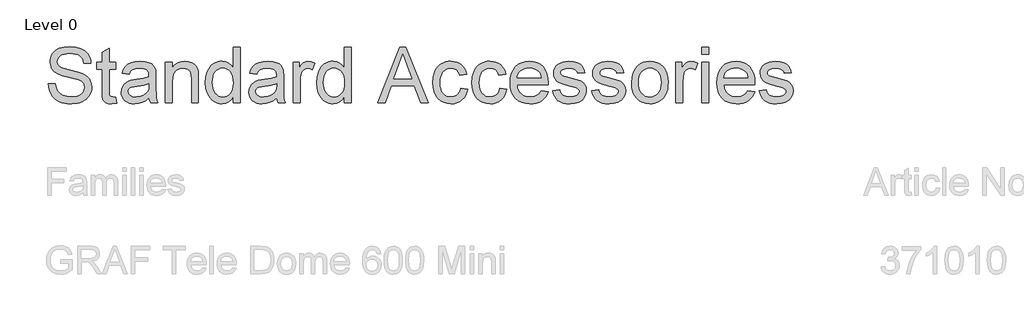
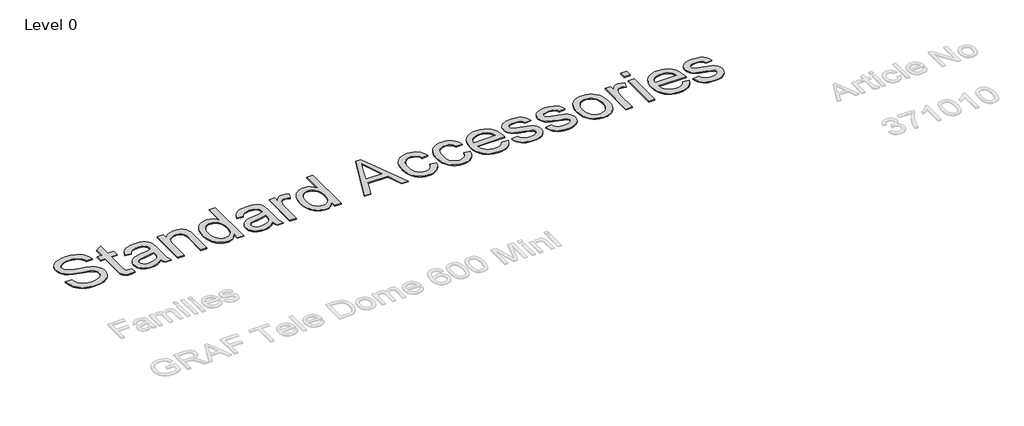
# One storey, part 12 of 19: 1 proxy.
"""IFC4 building model written with IfcOpenShell, lengths in millimetres."""

from ifc_helpers import new_model, si_unit, origin, origin_with_axes, place, context, project, spatial, polyline, outline, extrude, element, save

model = new_model("IFC4")

# Units and contexts
model_context = context("Model", 3, world=origin())
ifc_project = project(units=[si_unit("LENGTHUNIT", "METRE", prefix="MILLI")], contexts=[model_context])

# Site, building, storey
site = spatial("IfcSite", under=ifc_project)
building = spatial("IfcBuilding", under=site)
storey = spatial("IfcBuildingStorey", under=building, Name="Level 0", Elevation=0.0)

# Proxy
placement = place(None, origin())
element("IfcBuildingElementProxy", 1, Name="600mm Arial", ObjectType="600mm Arial", at=placement, inside=storey, context=model_context, shape_type="SweptSolid", body=[
    extrude(outline(polyline([(-15377.5518353, -7138.70625), (-15302.2096027, -7138.70625), (-15293.5643758, -7180.5160387), (-15277.9293911, -7214.122059), (-15253.5388148, -7240.7935036), (-15218.6268134, -7261.7995656), (-15175.952502, -7275.4295935), (-15128.2749954, -7279.9729361), (-15086.2996598, -7276.5332395), (-15049.5482484, -7266.2141495), (-15019.7682009, -7249.8801889), (-14998.7069567, -7228.3958804), (-14986.1805748, -7203.7293926), (-14982.0051141, -7177.8488943), (-14985.1321111, -7152.6305835), (-14994.513102, -7130.8335753), (-15013.5693893, -7112.2371404), (-15045.7222757, -7096.6205497), (-15155.4246867, -7067.8521777), (-15227.4375872, -7048.8142845), (-15273.5148071, -7030.6960962), (-15311.0203765, -7005.3490267), (-15337.5998507, -6974.6308801), (-15353.4371706, -6939.203844), (-15358.7162772, -6899.7301059), (-15357.0838008, -6877.2939027), (-15352.1863718, -6855.6026606), (-15344.02399, -6834.6563795), (-15332.5966555, -6814.4550594), (-15318.0331271, -6795.8218364), (-15300.4621633, -6779.5798463), (-15279.8837642, -6765.7290892), (-15256.2979297, -6754.269565), (-15203.2861342, -6738.8737035), (-15144.608956, -6733.7417497), (-15081.0389472, -6739.1128268), (-15025.4151896, -6755.2260582), (-15001.0797956, -6767.2282083), (-14979.7242458, -6781.7503501), (-14961.3485401, -6798.7924835), (-14945.9526786, -6818.3546086), (-14933.6562229, -6839.8665082), (-14924.5787347, -6862.7579654), (-14918.7202139, -6887.02898), (-14916.0806606, -6912.6795521), (-14991.4228932, -6912.6795521), (-14996.4628765, -6888.6384638), (-15005.2552562, -6867.7243723), (-15017.8000323, -6849.9372779), (-15034.0972046, -6835.2771804), (-15054.450276, -6823.8176562), (-15079.1627491, -6815.6322818), (-15108.2346237, -6810.7210572), (-15141.6659, -6809.0839823), (-15176.1640341, -6810.7026631), (-15205.640579, -6815.5587054), (-15230.0955346, -6823.6521093), (-15249.528901, -6834.9828748), (-15264.3361513, -6848.6037056), (-15274.9127587, -6863.5673058), (-15281.2587231, -6879.8736752), (-15283.3740446, -6897.5228139), (-15281.8749254, -6912.7071433), (-15277.3775681, -6926.475127), (-15269.8819724, -6938.8267649), (-15259.3881385, -6949.7620573), (-15242.8702369, -6960.1179354), (-15216.8609799, -6970.5841782), (-15136.3683993, -6991.8477575), (-15053.3006448, -7012.044479), (-15003.0479643, -7029.6660266), (-14960.0977413, -7056.9996588), (-14943.4924678, -7073.066905), (-14930.1337528, -7090.7344378), (-14919.8652466, -7109.9102868), (-14912.5305993, -7130.5024815), (-14906.6628815, -7175.9359079), (-14908.3505402, -7199.5033482), (-14913.4135161, -7222.3810098), (-14921.8518094, -7244.5688926), (-14933.66542, -7266.0669967), (-14948.6474142, -7286.042989), (-14966.5908585, -7303.6645366), (-14987.4957529, -7318.9316394), (-15011.3620973, -7331.8442974), (-15037.4955146, -7342.1128036), (-15065.2016273, -7349.4474509), (-15125.3319395, -7355.3151687), (-15163.872177, -7353.7332762), (-15199.1474618, -7348.9875984), (-15231.1577939, -7341.0781355), (-15259.9031733, -7330.0048875), (-15285.5583439, -7315.7494602), (-15308.2980498, -7298.2934595), (-15328.1222908, -7277.6368855), (-15345.031067, -7253.7797381), (-15358.6518978, -7227.4945695), (-15368.6123029, -7199.553932), (-15374.912282, -7169.9578255), (-15377.5518353, -7138.70625)])), origin_with_axes(), (0.0, 0.0, 1.0), 10.0),
    extrude(outline(polyline([(-14642.9650674, -7283.0631449), (-14633.5472883, -7348.1046816), (-14689.90681, -7355.3151687), (-14726.0696101, -7352.1881718), (-14753.0353603, -7342.8071809), (-14772.0916477, -7328.3494185), (-14784.5260591, -7309.9921069), (-14791.3686642, -7278.4646199), (-14793.6495326, -7224.4963313), (-14793.6495326, -6978.6040057), (-14850.1562071, -6978.6040057), (-14850.1562071, -6903.2617731), (-14793.6495326, -6903.2617731), (-14793.6495326, -6795.6930777), (-14718.3073, -6751.4000855), (-14718.3073, -6903.2617731), (-14642.9650674, -6903.2617731), (-14642.9650674, -6978.6040057), (-14718.3073, -6978.6040057), (-14718.3073, -7222.2890393), (-14714.3341744, -7261.137378), (-14701.4583046, -7274.8961646), (-14690.5873917, -7278.7037432), (-14675.7801413, -7279.9729361), (-14642.9650674, -7283.0631449)])), origin_with_axes(), (0.0, 0.0, 1.0), 10.0),
    extrude(outline(polyline([(-14285.0894625, -7289.3907152), (-14321.0867157, -7320.2560146), (-14358.1508267, -7340.4527361), (-14397.1279241, -7351.5995606), (-14438.8641365, -7355.3151687), (-14472.4103759, -7353.0802856), (-14501.8271399, -7346.3756363), (-14527.1144286, -7335.2012206), (-14548.2722418, -7319.5570388), (-14564.9786829, -7300.4363721), (-14576.9118551, -7278.8325019), (-14584.0717585, -7254.7454283), (-14586.4583929, -7228.1751512), (-14582.8531494, -7196.9419698), (-14572.0374187, -7168.578268), (-14555.3539702, -7144.2980563), (-14534.1455732, -7125.3153454), (-14509.221568, -7110.9679475), (-14481.3912951, -7100.5936753), (-14416.2026055, -7089.2629098), (-14339.1681158, -7077.3435332), (-14285.5309209, -7063.3640174), (-14285.0894625, -7046.5885984), (-14290.2765986, -7012.964184), (-14296.7605188, -7000.5113785), (-14305.838007, -6990.9648407), (-14321.5281741, -6981.436697), (-14340.6396437, -6974.6308801), (-14389.1264907, -6969.1862266), (-14434.0080941, -6972.8098643), (-14465.3516401, -6983.6807772), (-14486.725584, -7003.7855282), (-14501.6983812, -7035.1106801), (-14577.0406138, -7025.6929011), (-14563.9624089, -6984.4901176), (-14544.4462691, -6952.116502), (-14516.6711784, -6927.3580437), (-14478.8161211, -6909.0007322), (-14432.518172, -6897.6331785), (-14379.414406, -6893.843994), (-14328.4811438, -6897.1917201), (-14288.1060948, -6907.2348986), (-14257.6638597, -6922.3364545), (-14236.5290391, -6940.859313), (-14222.5127351, -6963.7599672), (-14213.4260498, -6991.9949103), (-14209.7472299, -7057.9193638), (-14209.7472299, -7151.6556962), (-14205.9212571, -7282.5481101), (-14200.2558744, -7314.9033316), (-14190.9116717, -7345.8973897), (-14266.2539043, -7345.8973897), (-14278.3204338, -7319.7041916), (-14285.0894625, -7289.3907152)]), holes=[polyline([(-14285.0894625, -7138.70625), (-14335.710025, -7151.251026), (-14406.6376737, -7161.8092393), (-14471.4584812, -7174.0229215), (-14488.3258707, -7182.3738428), (-14500.8154644, -7193.8885493), (-14508.5409863, -7207.6841241), (-14511.1161603, -7222.8776505), (-14505.5059599, -7245.281664), (-14488.6753586, -7263.6389755), (-14460.9922385, -7275.889446), (-14422.8244815, -7279.9729361), (-14382.357462, -7275.4663817), (-14346.5993321, -7261.9467184), (-14317.6102308, -7242.0259083), (-14297.4502975, -7218.3159137), (-14288.510765, -7193.8885493), (-14285.5309209, -7160.0434057), (-14285.0894625, -7138.70625)])]), origin_with_axes(), (0.0, 0.0, 1.0), 10.0),
    extrude(outline(polyline([(-14106.15166, -7345.8973897), (-14106.15166, -6903.2617731), (-14030.8094274, -6903.2617731), (-14030.8094274, -6965.0659483), (-14004.6346234, -6933.9063433), (-13973.199107, -6911.6494826), (-13936.5028779, -6898.2953661), (-13894.5459364, -6893.843994), (-13857.408249, -6897.4308434), (-13823.3975585, -6908.1913918), (-13795.0338567, -6924.7828698), (-13774.8371352, -6945.8625081), (-13761.1335308, -6971.3751245), (-13752.2491807, -7001.2655366), (-13748.2760551, -7074.1061716), (-13748.2760551, -7345.8973897), (-13823.6182877, -7345.8973897), (-13823.6182877, -7084.2597147), (-13825.7887915, -7045.3010114), (-13832.3003028, -7017.5994972), (-13844.3116499, -6997.7522635), (-13862.9816612, -6982.356402), (-13886.912385, -6972.4787705), (-13914.7058697, -6969.1862266), (-13937.5835313, -6971.0348336), (-13958.833315, -6976.5806547), (-13978.455221, -6985.8236898), (-13996.4492491, -6998.763939), (-14011.4818271, -7016.8729302), (-14022.2193828, -7041.6221914), (-14028.6619163, -7073.0117227), (-14030.8094274, -7111.0415239), (-14030.8094274, -7345.8973897), (-14106.15166, -7345.8973897)])), origin_with_axes(), (0.0, 0.0, 1.0), 10.0),
    extrude(outline(polyline([(-13371.564892, -7345.8973897), (-13371.564892, -7274.8225882), (-13394.1068613, -7310.0380922), (-13421.4129024, -7335.1920236), (-13453.4830153, -7350.2843825), (-13490.3172001, -7355.3151687), (-13515.186023, -7353.4941529), (-13539.0247763, -7348.0311052), (-13561.83346, -7338.9260259), (-13583.6120741, -7326.1789147), (-13603.6800369, -7310.1714494), (-13621.3567668, -7291.2853075), (-13636.6422637, -7269.5204889), (-13649.5365276, -7244.8769938), (-13659.7728441, -7217.8238716), (-13667.0844988, -7188.8301718), (-13672.9338225, -7125.0210398), (-13667.5443513, -7062.002854), (-13651.3759376, -7005.0915093), (-13639.2542258, -6979.7352428), (-13624.4469755, -6957.5243674), (-13606.9541867, -6938.458883), (-13586.7758592, -6922.5387896), (-13564.6247646, -6909.9848165), (-13541.2136741, -6901.0176929), (-13516.5425878, -6895.6374187), (-13490.6115057, -6893.843994), (-13453.7497298, -6898.9759478), (-13421.155385, -6914.3718093), (-13393.5274472, -6937.9714393), (-13371.564892, -6967.7146986), (-13371.564892, -6743.1595288), (-13296.2226594, -6743.1595288), (-13296.2226594, -7345.8973897), (-13371.564892, -7345.8973897)]), holes=[polyline([(-13597.5915899, -7124.7267342), (-13595.4670714, -7161.2620148), (-13589.0935158, -7192.8768738), (-13578.4709232, -7219.571311), (-13563.5992935, -7241.3453266), (-13545.8397902, -7258.2449058), (-13526.5535766, -7270.3160338), (-13505.7406527, -7277.5587105), (-13483.4010186, -7279.9729361), (-13460.9556183, -7277.6690751), (-13440.2668546, -7270.7574921), (-13421.3347275, -7259.2381872), (-13404.1592368, -7243.1111602), (-13389.899211, -7222.2476526), (-13379.7134782, -7196.5189055), (-13373.6020386, -7165.9249191), (-13371.564892, -7130.4656933), (-13373.6388268, -7091.5897634), (-13379.860631, -7058.2504576), (-13390.2303048, -7030.4477758), (-13404.747848, -7008.1817181), (-13422.3004177, -6991.1211906), (-13441.7751708, -6978.9350995), (-13463.1721074, -6971.6234448), (-13486.4912273, -6969.1862266), (-13509.2723199, -6971.5268758), (-13530.0852438, -6978.5488234), (-13548.929999, -6990.2520693), (-13565.8065855, -7006.6366137), (-13579.7125249, -7028.0611414), (-13589.6453388, -7054.8843374), (-13595.6050271, -7087.1062016), (-13597.5915899, -7124.7267342)])]), origin_with_axes(), (0.0, 0.0, 1.0), 10.0),
    extrude(outline(polyline([(-12900.6759382, -7289.3907152), (-12936.6731914, -7320.2560146), (-12973.7373025, -7340.4527361), (-13012.7143999, -7351.5995606), (-13054.4506122, -7355.3151687), (-13087.9968516, -7353.0802856), (-13117.4136157, -7346.3756363), (-13142.7009043, -7335.2012206), (-13163.8587176, -7319.5570388), (-13180.5651587, -7300.4363721), (-13192.4983309, -7278.8325019), (-13199.6582342, -7254.7454283), (-13202.0448687, -7228.1751512), (-13198.4396251, -7196.9419698), (-13187.6238945, -7168.578268), (-13170.940446, -7144.2980563), (-13149.732049, -7125.3153454), (-13124.8080438, -7110.9679475), (-13096.9777708, -7100.5936753), (-13031.7890813, -7089.2629098), (-12954.7545915, -7077.3435332), (-12901.1173966, -7063.3640174), (-12900.6759382, -7046.5885984), (-12905.8630744, -7012.964184), (-12912.3469945, -7000.5113785), (-12921.4244827, -6990.9648407), (-12937.1146498, -6981.436697), (-12956.2261195, -6974.6308801), (-13004.7129665, -6969.1862266), (-13049.5945699, -6972.8098643), (-13080.9381159, -6983.6807772), (-13102.3120598, -7003.7855282), (-13117.284857, -7035.1106801), (-13192.6270896, -7025.6929011), (-13179.5488847, -6984.4901176), (-13160.0327448, -6952.116502), (-13132.2576542, -6927.3580437), (-13094.4025969, -6909.0007322), (-13048.1046478, -6897.6331785), (-12995.0008818, -6893.843994), (-12944.0676196, -6897.1917201), (-12903.6925706, -6907.2348986), (-12873.2503355, -6922.3364545), (-12852.1155149, -6940.859313), (-12838.0992108, -6963.7599672), (-12829.0125256, -6991.9949103), (-12825.3337056, -7057.9193638), (-12825.3337056, -7151.6556962), (-12821.5077329, -7282.5481101), (-12815.8423501, -7314.9033316), (-12806.4981475, -7345.8973897), (-12881.8403801, -7345.8973897), (-12893.9069095, -7319.7041916), (-12900.6759382, -7289.3907152)]), holes=[polyline([(-12900.6759382, -7138.70625), (-12951.2965008, -7151.251026), (-13022.2241494, -7161.8092393), (-13087.044957, -7174.0229215), (-13103.9123465, -7182.3738428), (-13116.4019402, -7193.8885493), (-13124.1274621, -7207.6841241), (-13126.7026361, -7222.8776505), (-13121.0924356, -7245.281664), (-13104.2618344, -7263.6389755), (-13076.5787142, -7275.889446), (-13038.4109572, -7279.9729361), (-12997.9439377, -7275.4663817), (-12962.1858078, -7261.9467184), (-12933.1967066, -7242.0259083), (-12913.0367733, -7218.3159137), (-12904.0972408, -7193.8885493), (-12901.1173966, -7160.0434057), (-12900.6759382, -7138.70625)])]), origin_with_axes(), (0.0, 0.0, 1.0), 10.0),
    extrude(outline(polyline([(-12721.7381358, -7345.8973897), (-12721.7381358, -6903.2617731), (-12655.8136822, -6903.2617731), (-12655.8136822, -6968.7447682), (-12631.4598941, -6930.7793463), (-12609.0190924, -6908.412121), (-12586.5047143, -6897.4860257), (-12561.9301971, -6893.843994), (-12524.4062336, -6899.6565295), (-12486.2936589, -6917.0941361), (-12511.4567873, -6984.6372704), (-12537.944291, -6973.0489875), (-12564.4317946, -6969.1862266), (-12586.9277786, -6972.9018347), (-12607.0325297, -6984.0486592), (-12623.2745198, -7001.7805714), (-12634.1822209, -7025.2514427), (-12643.3424826, -7067.3371429), (-12646.3959032, -7113.2488159), (-12646.3959032, -7345.8973897), (-12721.7381358, -7345.8973897)])), origin_with_axes(), (0.0, 0.0, 1.0), 10.0),
    extrude(outline(polyline([(-12166.0891703, -7345.8973897), (-12166.0891703, -7274.8225882), (-12188.6311395, -7310.0380922), (-12215.9371806, -7335.1920236), (-12248.0072935, -7350.2843825), (-12284.8414783, -7355.3151687), (-12309.7103012, -7353.4941529), (-12333.5490545, -7348.0311052), (-12356.3577382, -7338.9260259), (-12378.1363523, -7326.1789147), (-12398.2043151, -7310.1714494), (-12415.881045, -7291.2853075), (-12431.1665419, -7269.5204889), (-12444.0608058, -7244.8769938), (-12454.2971223, -7217.8238716), (-12461.608777, -7188.8301718), (-12467.4581007, -7125.0210398), (-12462.0686295, -7062.002854), (-12445.9002158, -7005.0915093), (-12433.778504, -6979.7352428), (-12418.9712537, -6957.5243674), (-12401.4784649, -6938.458883), (-12381.3001374, -6922.5387896), (-12359.1490428, -6909.9848165), (-12335.7379523, -6901.0176929), (-12311.066866, -6895.6374187), (-12285.1357839, -6893.843994), (-12248.274008, -6898.9759478), (-12215.6796632, -6914.3718093), (-12188.0517254, -6937.9714393), (-12166.0891703, -6967.7146986), (-12166.0891703, -6743.1595288), (-12090.7469376, -6743.1595288), (-12090.7469376, -7345.8973897), (-12166.0891703, -7345.8973897)]), holes=[polyline([(-12392.1158681, -7124.7267342), (-12389.9913496, -7161.2620148), (-12383.617794, -7192.8768738), (-12372.9952014, -7219.571311), (-12358.1235717, -7241.3453266), (-12340.3640684, -7258.2449058), (-12321.0778548, -7270.3160338), (-12300.2649309, -7277.5587105), (-12277.9252968, -7279.9729361), (-12255.4798966, -7277.6690751), (-12234.7911328, -7270.7574921), (-12215.8590057, -7259.2381872), (-12198.683515, -7243.1111602), (-12184.4234892, -7222.2476526), (-12174.2377564, -7196.5189055), (-12168.1263168, -7165.9249191), (-12166.0891703, -7130.4656933), (-12168.163105, -7091.5897634), (-12174.3849092, -7058.2504576), (-12184.754583, -7030.4477758), (-12199.2721262, -7008.1817181), (-12216.8246959, -6991.1211906), (-12236.299449, -6978.9350995), (-12257.6963856, -6971.6234448), (-12281.0155055, -6969.1862266), (-12303.7965981, -6971.5268758), (-12324.609522, -6978.5488234), (-12343.4542772, -6990.2520693), (-12360.3308637, -7006.6366137), (-12374.2368031, -7028.0611414), (-12384.169617, -7054.8843374), (-12390.1293053, -7087.1062016), (-12392.1158681, -7124.7267342)])]), origin_with_axes(), (0.0, 0.0, 1.0), 10.0),
    extrude(outline(polyline([(-11803.0632174, -7345.8973897), (-11562.4683926, -6743.1595288), (-11498.3097726, -6743.1595288), (-11257.7149478, -7345.8973897), (-11337.3246115, -7345.8973897), (-11406.3392738, -7157.5418081), (-11654.5860442, -7157.5418081), (-11723.4535537, -7345.8973897), (-11803.0632174, -7345.8973897)]), holes=[polyline([(-11626.9213181, -7082.1995755), (-11433.8568471, -7082.1995755), (-11488.1562295, -6934.0167079), (-11530.3890826, -6818.5017614), (-11567.9130461, -6921.0672616), (-11626.9213181, -7082.1995755)])]), origin_with_axes(), (0.0, 0.0, 1.0), 10.0),
    extrude(outline(polyline([(-10904.106774, -7185.7951454), (-10828.7645414, -7195.2129244), (-10836.9591128, -7230.7641207), (-10849.7706033, -7262.2226299), (-10867.1990128, -7289.5884518), (-10889.2443414, -7312.8615865), (-10914.977687, -7331.4350287), (-10943.4701475, -7344.7017732), (-10974.721723, -7352.6618198), (-11008.7324134, -7355.3151687), (-11050.9882591, -7351.6133562), (-11088.8755061, -7340.5079184), (-11122.3941544, -7321.9988555), (-11151.544204, -7296.0861675), (-11175.1392354, -7263.257298), (-11191.9928293, -7223.9996906), (-11202.1049857, -7178.3133453), (-11205.4757044, -7126.1982621), (-11199.7183512, -7059.1517685), (-11192.5216597, -7028.9808464), (-11182.4462915, -7001.0448074), (-11169.4232689, -6975.9046715), (-11153.3836139, -6954.1214589), (-11134.3273266, -6935.6951695), (-11112.2544069, -6920.6258032), (-11088.1627347, -6908.9087617), (-11063.05019, -6900.5394463), (-11036.9167728, -6895.5178571), (-11009.762483, -6893.843994), (-10976.3358052, -6896.1432565), (-10946.1005037, -6903.0410439), (-10919.0565786, -6914.5373562), (-10895.2040297, -6930.6321935), (-10874.9475274, -6950.9576737), (-10858.6917417, -6975.1459149), (-10846.4366727, -7003.1969171), (-10838.1823205, -7035.1106801), (-10913.5245531, -7044.5284592), (-10927.1913692, -7011.6582029), (-10948.4733426, -6988.0953612), (-10976.193251, -6973.9135102), (-11009.1738718, -6969.1862266), (-11034.7738602, -6971.5130802), (-11057.8630539, -6978.4936411), (-11078.441453, -6990.1279092), (-11096.5090575, -7006.4158845), (-11111.2197388, -7027.7346461), (-11121.7273682, -7054.4612731), (-11128.0319459, -7086.5957654), (-11130.1334718, -7124.138123), (-11128.0779312, -7162.2460991), (-11121.9113092, -7194.7530719), (-11111.633606, -7221.6590414), (-11097.2448215, -7242.9640074), (-11079.5359019, -7259.1554137), (-11059.2977937, -7270.7207039), (-11036.5304967, -7277.6598781), (-11011.234011, -7279.9729361), (-10972.2201254, -7274.1971888), (-10955.3481374, -7266.9775046), (-10940.2327859, -7256.8699468), (-10927.2971353, -7243.7641507), (-10916.9642497, -7227.5497518), (-10909.2341293, -7208.22675), (-10904.106774, -7185.7951454)])), origin_with_axes(), (0.0, 0.0, 1.0), 10.0),
    extrude(outline(polyline([(-10480.3067156, -7185.7951454), (-10404.9644829, -7195.2129244), (-10413.1590544, -7230.7641207), (-10425.9705449, -7262.2226299), (-10443.3989544, -7289.5884518), (-10465.4442829, -7312.8615865), (-10491.1776285, -7331.4350287), (-10519.670089, -7344.7017732), (-10550.9216645, -7352.6618198), (-10584.932355, -7355.3151687), (-10627.1882007, -7351.6133562), (-10665.0754476, -7340.5079184), (-10698.5940959, -7321.9988555), (-10727.7441455, -7296.0861675), (-10751.339177, -7263.257298), (-10768.1927709, -7223.9996906), (-10778.3049272, -7178.3133453), (-10781.675646, -7126.1982621), (-10775.9182928, -7059.1517685), (-10768.7216012, -7028.9808464), (-10758.6462331, -7001.0448074), (-10745.6232105, -6975.9046715), (-10729.5835555, -6954.1214589), (-10710.5272681, -6935.6951695), (-10688.4543484, -6920.6258032), (-10664.3626763, -6908.9087617), (-10639.2501316, -6900.5394463), (-10613.1167143, -6895.5178571), (-10585.9624246, -6893.843994), (-10552.5357468, -6896.1432565), (-10522.3004453, -6903.0410439), (-10495.2565201, -6914.5373562), (-10471.4039713, -6930.6321935), (-10451.1474689, -6950.9576737), (-10434.8916832, -6975.1459149), (-10422.6366143, -7003.1969171), (-10414.382262, -7035.1106801), (-10489.7244946, -7044.5284592), (-10503.3913107, -7011.6582029), (-10524.6732842, -6988.0953612), (-10552.3931925, -6973.9135102), (-10585.3738134, -6969.1862266), (-10610.9738017, -6971.5130802), (-10634.0629954, -6978.4936411), (-10654.6413945, -6990.1279092), (-10672.708999, -7006.4158845), (-10687.4196803, -7027.7346461), (-10697.9273098, -7054.4612731), (-10704.2318875, -7086.5957654), (-10706.3334134, -7124.138123), (-10704.2778727, -7162.2460991), (-10698.1112508, -7194.7530719), (-10687.8335476, -7221.6590414), (-10673.444763, -7242.9640074), (-10655.7358435, -7259.1554137), (-10635.4977352, -7270.7207039), (-10612.7304382, -7277.6598781), (-10587.4339525, -7279.9729361), (-10548.420067, -7274.1971888), (-10531.548079, -7266.9775046), (-10516.4327275, -7256.8699468), (-10503.4970768, -7243.7641507), (-10493.1641913, -7227.5497518), (-10485.4340709, -7208.22675), (-10480.3067156, -7185.7951454)])), origin_with_axes(), (0.0, 0.0, 1.0), 10.0),
    extrude(outline(polyline([(-10029.1362367, -7214.0484826), (-9955.265532, -7223.4662617), (-9966.591699, -7253.0531711), (-9981.8817944, -7279.1268075), (-10001.1358183, -7301.6871709), (-10024.3537707, -7320.7342612), (-10051.2965284, -7335.8634082), (-10081.7249679, -7346.6699418), (-10115.6390893, -7353.153862), (-10153.0388926, -7355.3151687), (-10199.7874972, -7351.585765), (-10241.4409361, -7340.3975538), (-10277.9992094, -7321.7505352), (-10309.462317, -7295.6447091), (-10334.7634012, -7262.8066425), (-10352.8356042, -7223.9629024), (-10363.678926, -7179.1134886), (-10367.2933666, -7128.2584013), (-10363.6421378, -7075.6788672), (-10352.6884514, -7029.3349328), (-10334.4323074, -6989.2265983), (-10308.8737058, -6955.3538636), (-10277.4933716, -6928.4432956), (-10241.7720299, -6909.2214614), (-10201.7096806, -6897.6883608), (-10157.3063238, -6893.843994), (-10114.3331082, -6897.6791638), (-10075.470974, -6909.1846732), (-10040.719921, -6928.3605222), (-10010.0799493, -6955.2067108), (-9985.0685722, -6989.0058691), (-9967.2033028, -7029.0406272), (-9956.4841411, -7075.3109852), (-9952.9110873, -7127.8169429), (-9953.3525457, -7148.1240291), (-10291.951134, -7148.1240291), (-10287.5871339, -7178.1891851), (-10278.9097173, -7204.5203389), (-10265.9188843, -7227.1174905), (-10248.614635, -7245.9806398), (-10227.9534624, -7260.8522694), (-10204.8918599, -7271.474862), (-10179.4298273, -7277.8484176), (-10151.5673647, -7279.9729361), (-10111.4682272, -7276.0365988), (-10077.69666, -7264.2275867), (-10050.2526632, -7243.810136), (-10029.1362367, -7214.0484826)]), holes=[polyline([(-10291.951134, -7072.7817964), (-10028.2533199, -7072.7817964), (-10038.4436511, -7032.9769646), (-10047.2084397, -7017.3235857), (-10058.4196435, -7004.5028981), (-10078.9658529, -6989.0518543), (-10102.3447537, -6978.0153945), (-10128.5563459, -6971.3935186), (-10157.6006294, -6969.1862266), (-10184.0927316, -6970.9474617), (-10208.3867388, -6976.2311668), (-10230.4826512, -6985.0373421), (-10250.3804686, -6997.3659874), (-10267.0777126, -7012.6468858), (-10279.5719049, -7030.3098201), (-10287.8630454, -7050.3547903), (-10291.951134, -7072.7817964)])]), origin_with_axes(), (0.0, 0.0, 1.0), 10.0),
    extrude(outline(polyline([(-9905.8221919, -7214.0484826), (-9830.4799593, -7204.6307035), (-9825.9274196, -7221.8107927), (-9818.5973708, -7236.8571663), (-9808.489813, -7249.7698243), (-9795.6047461, -7260.5487668), (-9779.905382, -7269.0468409), (-9761.3549324, -7275.1168938), (-9715.7007768, -7279.9729361), (-9670.5984442, -7275.521564), (-9653.0688671, -7269.9573488), (-9638.8870162, -7262.1674476), (-9620.1250344, -7242.8168546), (-9615.434539, -7231.9827299), (-9613.8710405, -7220.3760529), (-9615.443736, -7210.2041157), (-9620.1618226, -7201.1726128), (-9639.034169, -7186.5309093), (-9667.250718, -7176.9659775), (-9716.5836936, -7165.0466008), (-9785.3408385, -7145.162579), (-9830.0385009, -7128.1848249), (-9858.7516906, -7109.6619665), (-9879.5554174, -7085.1426315), (-9892.192164, -7056.1903185), (-9896.4044128, -7024.3685259), (-9893.0198985, -6995.1770896), (-9882.8663554, -6968.2297334), (-9866.8634886, -6944.5933152), (-9845.9310031, -6925.3346928), (-9825.1272762, -6913.212981), (-9798.0327673, -6903.0410439), (-9766.7076154, -6896.1432565), (-9733.2119597, -6893.843994), (-9684.1732898, -6897.541208), (-9641.5357665, -6908.6328502), (-9607.2491646, -6926.0336686), (-9583.2632585, -6948.6584113), (-9567.3707563, -6978.1809414), (-9557.3643661, -7016.275122), (-9632.7065987, -7025.6929011), (-9642.2163482, -7001.9829065), (-9661.0335123, -6984.1222356), (-9689.3420318, -6972.9202288), (-9727.3258478, -6969.1862266), (-9770.5887705, -6972.754682), (-9799.4307189, -6983.460048), (-9815.6543149, -6998.9110918), (-9821.0621802, -7016.7165804), (-9818.8181, -7028.3048632), (-9812.0858595, -7038.6423473), (-9800.5711531, -7047.8761854), (-9783.9796751, -7055.2706135), (-9719.0852911, -7071.3102685), (-9608.4999634, -7106.7740928), (-9579.290133, -7123.7334528), (-9557.1436369, -7146.9468067), (-9543.1825151, -7176.4877309), (-9538.5288079, -7212.4298018), (-9543.9918555, -7249.5858833), (-9560.3809984, -7284.5346729), (-9587.0708372, -7314.5354496), (-9623.4359724, -7336.8474926), (-9667.3610826, -7350.6982497), (-9716.7308464, -7355.3151687), (-9757.2806393, -7353.0894827), (-9792.6984784, -7346.4124245), (-9822.9843636, -7335.2839941), (-9848.138295, -7319.7041916), (-9868.6845045, -7299.7465934), (-9885.1472238, -7275.4847758), (-9897.5264529, -7246.9187389), (-9905.8221919, -7214.0484826)])), origin_with_axes(), (0.0, 0.0, 1.0), 10.0),
    extrude(outline(polyline([(-9482.0221334, -7214.0484826), (-9406.6799008, -7204.6307035), (-9402.1273611, -7221.8107927), (-9394.7973124, -7236.8571663), (-9384.6897546, -7249.7698243), (-9371.8046877, -7260.5487668), (-9356.1053235, -7269.0468409), (-9337.5548739, -7275.1168938), (-9291.9007183, -7279.9729361), (-9246.7983857, -7275.521564), (-9229.2688087, -7269.9573488), (-9215.0869577, -7262.1674476), (-9196.324976, -7242.8168546), (-9191.6344805, -7231.9827299), (-9190.0709821, -7220.3760529), (-9191.6436776, -7210.2041157), (-9196.3617642, -7201.1726128), (-9215.2341105, -7186.5309093), (-9243.4506596, -7176.9659775), (-9292.7836351, -7165.0466008), (-9361.54078, -7145.162579), (-9406.2384424, -7128.1848249), (-9434.9516322, -7109.6619665), (-9455.755359, -7085.1426315), (-9468.3921055, -7056.1903185), (-9472.6043544, -7024.3685259), (-9469.21984, -6995.1770896), (-9459.0662969, -6968.2297334), (-9443.0634302, -6944.5933152), (-9422.1309446, -6925.3346928), (-9401.3272178, -6913.212981), (-9374.2327089, -6903.0410439), (-9342.907557, -6896.1432565), (-9309.4119013, -6893.843994), (-9260.3732313, -6897.541208), (-9217.7357081, -6908.6328502), (-9183.4491062, -6926.0336686), (-9159.4632001, -6948.6584113), (-9143.5706979, -6978.1809414), (-9133.5643076, -7016.275122), (-9208.9065402, -7025.6929011), (-9218.4162898, -7001.9829065), (-9237.2334538, -6984.1222356), (-9265.5419734, -6972.9202288), (-9303.5257894, -6969.1862266), (-9346.788712, -6972.754682), (-9375.6306604, -6983.460048), (-9391.8542564, -6998.9110918), (-9397.2621218, -7016.7165804), (-9395.0180416, -7028.3048632), (-9388.2858011, -7038.6423473), (-9376.7710946, -7047.8761854), (-9360.1796166, -7055.2706135), (-9295.2852327, -7071.3102685), (-9184.6999049, -7106.7740928), (-9155.4900745, -7123.7334528), (-9133.3435784, -7146.9468067), (-9119.3824567, -7176.4877309), (-9114.7287495, -7212.4298018), (-9120.1917971, -7249.5858833), (-9136.58094, -7284.5346729), (-9163.2707787, -7314.5354496), (-9199.6359139, -7336.8474926), (-9243.5610242, -7350.6982497), (-9292.9307879, -7355.3151687), (-9333.4805808, -7353.0894827), (-9368.8984199, -7346.4124245), (-9399.1843052, -7335.2839941), (-9424.3382366, -7319.7041916), (-9444.884446, -7299.7465934), (-9461.3471653, -7275.4847758), (-9473.7263944, -7246.9187389), (-9482.0221334, -7214.0484826)])), origin_with_axes(), (0.0, 0.0, 1.0), 10.0),
    extrude(outline(polyline([(-9048.8042959, -7124.5795814), (-9044.7300028, -7067.2543695), (-9032.5071235, -7017.8570146), (-9012.1356581, -6976.3875167), (-8983.6156064, -6942.8458757), (-8954.9024167, -6921.4075525), (-8923.2093828, -6906.0944644), (-8888.5365047, -6896.9066116), (-8850.8837825, -6893.843994), (-8809.3177156, -6897.5733977), (-8771.7339713, -6908.7616089), (-8738.1325495, -6927.4086275), (-8708.5134504, -6953.5144536), (-8684.3390048, -6986.1961704), (-8667.0715436, -7024.570861), (-8656.7110669, -7068.6385255), (-8653.2575747, -7118.3991638), (-8654.784285, -7158.7282276), (-8659.3644158, -7194.5139486), (-8666.9979672, -7225.7563271), (-8677.6849392, -7252.4553629), (-8691.2919745, -7275.5169655), (-8707.6857159, -7295.8470442), (-8726.8661634, -7313.4455992), (-8748.8333171, -7328.3126303), (-8772.7318512, -7340.1262409), (-8797.7064401, -7348.5645341), (-8823.7570839, -7353.6275101), (-8850.8837825, -7355.3151687), (-8893.0568547, -7351.5995606), (-8930.990087, -7340.4527361), (-8964.6834792, -7321.8746954), (-8994.1370314, -7295.8654383), (-9018.0539596, -7262.8664233), (-9035.1374798, -7223.3191089), (-9045.3875919, -7177.2234949), (-9048.8042959, -7124.5795814)]), holes=[polyline([(-8973.4620633, -7124.4324286), (-8971.2823625, -7160.9769063), (-8964.74326, -7192.6193564), (-8953.8447559, -7219.3597789), (-8938.5868502, -7241.1981738), (-8920.0272035, -7258.1621323), (-8899.2234767, -7270.2792456), (-8876.1756697, -7277.5495135), (-8850.8837825, -7279.9729361), (-8825.720654, -7277.5357179), (-8802.7648175, -7270.2240633), (-8782.016273, -7258.0379722), (-8763.4750205, -7240.9774446), (-8748.2171147, -7218.922919), (-8737.3186106, -7191.7548337), (-8730.7795081, -7159.4731886), (-8728.5998073, -7122.0779838), (-8730.7933037, -7086.6923344), (-8737.3737929, -7055.8776188), (-8748.3412749, -7029.6338369), (-8763.6957497, -7007.9609889), (-8782.3059801, -6990.9970304), (-8803.040729, -6978.8799172), (-8825.8999965, -6971.6096492), (-8850.8837825, -6969.1862266), (-8876.1756697, -6971.6004522), (-8899.2234767, -6978.843129), (-8920.0272035, -6990.9142569), (-8938.5868502, -7007.8138361), (-8953.8447559, -7029.5878517), (-8964.74326, -7056.282289), (-8971.2823625, -7087.8971479), (-8973.4620633, -7124.4324286)])]), origin_with_axes(), (0.0, 0.0, 1.0), 10.0),
    extrude(outline(polyline([(-8568.497563, -7345.8973897), (-8568.497563, -6903.2617731), (-8502.5731095, -6903.2617731), (-8502.5731095, -6968.7447682), (-8478.2193214, -6930.7793463), (-8455.7785197, -6908.412121), (-8433.2641416, -6897.4860257), (-8408.6896243, -6893.843994), (-8371.1656608, -6899.6565295), (-8333.0530861, -6917.0941361), (-8358.2162146, -6984.6372704), (-8384.7037182, -6973.0489875), (-8411.1912219, -6969.1862266), (-8433.6872059, -6972.9018347), (-8453.7919569, -6984.0486592), (-8470.033947, -7001.7805714), (-8480.9416482, -7025.2514427), (-8490.1019098, -7067.3371429), (-8493.1553304, -7113.2488159), (-8493.1553304, -7345.8973897), (-8568.497563, -7345.8973897)])), origin_with_axes(), (0.0, 0.0, 1.0), 10.0),
    extrude(outline(polyline([(-8285.9641907, -6818.5017614), (-8285.9641907, -6743.1595288), (-8210.6219581, -6743.1595288), (-8210.6219581, -6818.5017614), (-8285.9641907, -6818.5017614)])), origin_with_axes(), (0.0, 0.0, 1.0), 10.0),
    extrude(outline(polyline([(-8285.9641907, -7345.8973897), (-8285.9641907, -6903.2617731), (-8210.6219581, -6903.2617731), (-8210.6219581, -7345.8973897), (-8285.9641907, -7345.8973897)])), origin_with_axes(), (0.0, 0.0, 1.0), 10.0),
    extrude(outline(polyline([(-7787.7048165, -7214.0484826), (-7713.8341118, -7223.4662617), (-7725.1602787, -7253.0531711), (-7740.4503742, -7279.1268075), (-7759.7043981, -7301.6871709), (-7782.9223505, -7320.7342612), (-7809.8651081, -7335.8634082), (-7840.2935477, -7346.6699418), (-7874.2076691, -7353.153862), (-7911.6074724, -7355.3151687), (-7958.356077, -7351.585765), (-8000.0095159, -7340.3975538), (-8036.5677891, -7321.7505352), (-8068.0308968, -7295.6447091), (-8093.331981, -7262.8066425), (-8111.404184, -7223.9629024), (-8122.2475058, -7179.1134886), (-8125.8619464, -7128.2584013), (-8122.2107176, -7075.6788672), (-8111.2570312, -7029.3349328), (-8093.0008872, -6989.2265983), (-8067.4422856, -6955.3538636), (-8036.0619514, -6928.4432956), (-8000.3406097, -6909.2214614), (-7960.2782604, -6897.6883608), (-7915.8749036, -6893.843994), (-7872.901688, -6897.6791638), (-7834.0395537, -6909.1846732), (-7799.2885008, -6928.3605222), (-7768.6485291, -6955.2067108), (-7743.637152, -6989.0058691), (-7725.7718826, -7029.0406272), (-7715.0527209, -7075.3109852), (-7711.4796671, -7127.8169429), (-7711.9211254, -7148.1240291), (-8050.5197138, -7148.1240291), (-8046.1557136, -7178.1891851), (-8037.4782971, -7204.5203389), (-8024.4874641, -7227.1174905), (-8007.1832148, -7245.9806398), (-7986.5220422, -7260.8522694), (-7963.4604396, -7271.474862), (-7937.9984071, -7277.8484176), (-7910.1359444, -7279.9729361), (-7870.036807, -7276.0365988), (-7836.2652398, -7264.2275867), (-7808.821243, -7243.810136), (-7787.7048165, -7214.0484826)]), holes=[polyline([(-8050.5197138, -7072.7817964), (-7786.8218997, -7072.7817964), (-7797.0122309, -7032.9769646), (-7805.7770195, -7017.3235857), (-7816.9882233, -7004.5028981), (-7837.5344327, -6989.0518543), (-7860.9133335, -6978.0153945), (-7887.1249257, -6971.3935186), (-7916.1692092, -6969.1862266), (-7942.6613113, -6970.9474617), (-7966.9553186, -6976.2311668), (-7989.0512309, -6985.0373421), (-8008.9490484, -6997.3659874), (-8025.6462924, -7012.6468858), (-8038.1404847, -7030.3098201), (-8046.4316251, -7050.3547903), (-8050.5197138, -7072.7817964)])]), origin_with_axes(), (0.0, 0.0, 1.0), 10.0),
    extrude(outline(polyline([(-7664.3907717, -7214.0484826), (-7589.0485391, -7204.6307035), (-7584.4959994, -7221.8107927), (-7577.1659506, -7236.8571663), (-7567.0583928, -7249.7698243), (-7554.1733259, -7260.5487668), (-7538.4739618, -7269.0468409), (-7519.9235122, -7275.1168938), (-7474.2693566, -7279.9729361), (-7429.167024, -7275.521564), (-7411.6374469, -7269.9573488), (-7397.455596, -7262.1674476), (-7378.6936142, -7242.8168546), (-7374.0031188, -7231.9827299), (-7372.4396203, -7220.3760529), (-7374.0123158, -7210.2041157), (-7378.7304024, -7201.1726128), (-7397.6027488, -7186.5309093), (-7425.8192978, -7176.9659775), (-7475.1522734, -7165.0466008), (-7543.9094183, -7145.162579), (-7588.6070807, -7128.1848249), (-7617.3202704, -7109.6619665), (-7638.1239972, -7085.1426315), (-7650.7607437, -7056.1903185), (-7654.9729926, -7024.3685259), (-7651.5884782, -6995.1770896), (-7641.4349352, -6968.2297334), (-7625.4320684, -6944.5933152), (-7604.4995829, -6925.3346928), (-7583.695856, -6913.212981), (-7556.6013471, -6903.0410439), (-7525.2761952, -6896.1432565), (-7491.7805395, -6893.843994), (-7442.7418696, -6897.541208), (-7400.1043463, -6908.6328502), (-7365.8177444, -6926.0336686), (-7341.8318383, -6948.6584113), (-7325.9393361, -6978.1809414), (-7315.9329458, -7016.275122), (-7391.2751785, -7025.6929011), (-7400.784928, -7001.9829065), (-7419.6020921, -6984.1222356), (-7447.9106116, -6972.9202288), (-7485.8944276, -6969.1862266), (-7529.1573502, -6972.754682), (-7557.9992987, -6983.460048), (-7574.2228947, -6998.9110918), (-7579.63076, -7016.7165804), (-7577.3866798, -7028.3048632), (-7570.6544393, -7038.6423473), (-7559.1397329, -7047.8761854), (-7542.5482549, -7055.2706135), (-7477.6538709, -7071.3102685), (-7367.0685432, -7106.7740928), (-7337.8587128, -7123.7334528), (-7315.7122166, -7146.9468067), (-7301.7510949, -7176.4877309), (-7297.0973877, -7212.4298018), (-7302.5604353, -7249.5858833), (-7318.9495782, -7284.5346729), (-7345.6394169, -7314.5354496), (-7382.0045522, -7336.8474926), (-7425.9296624, -7350.6982497), (-7475.2994262, -7355.3151687), (-7515.8492191, -7353.0894827), (-7551.2670582, -7346.4124245), (-7581.5529434, -7335.2839941), (-7606.7068748, -7319.7041916), (-7627.2530843, -7299.7465934), (-7643.7158035, -7275.4847758), (-7656.0950327, -7246.9187389), (-7664.3907717, -7214.0484826)])), origin_with_axes(), (0.0, 0.0, 1.0), 10.0),
])

save(model, "model.ifc")
